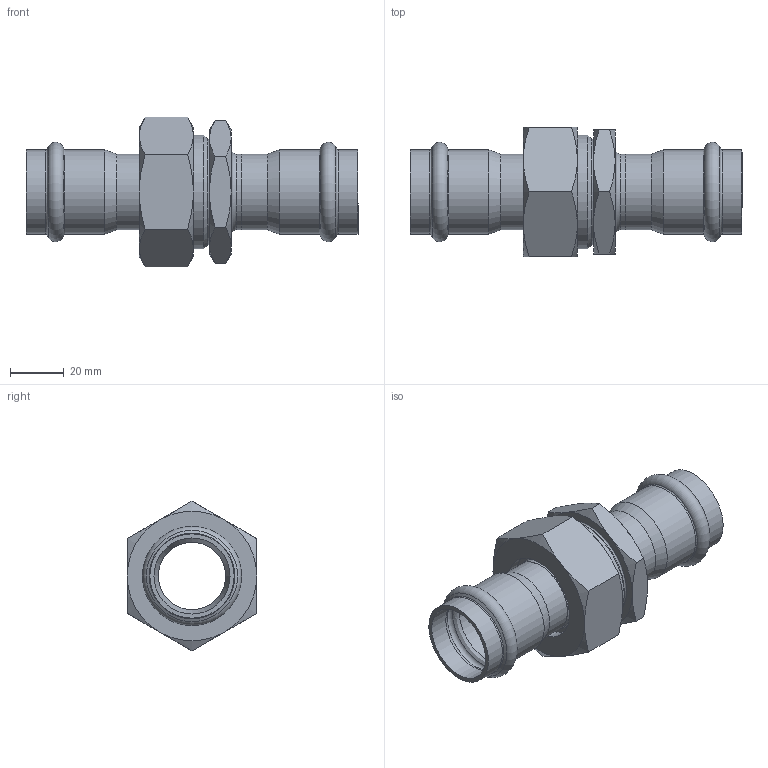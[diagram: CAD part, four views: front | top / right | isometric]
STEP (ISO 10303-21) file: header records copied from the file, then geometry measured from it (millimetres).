
FILE_DESCRIPTION((''),'2;1');
FILE_NAME('G:\Nirosan-Schmiedefeld\Technics\CAD\Bauteile VA\028\6933028(3).stp','2011-05-25T08:47:13',('herberg'),(''),'Autodesk Inventor 2009','Autodesk Inventor 2009','');
FILE_SCHEMA(('AUTOMOTIVE_DESIGN { 1 0 10303 214 1 1 1 1 }'));
Length unit declared in the file: millimetre
Products named in the file (9): 6933028(3); 69359m28114(4); HM_6924328(1); R28114(0); SM28114(3); FD_3827_EPDM(0); 69359AG28114(1); 6924328HM(1); 359AG28114(2)
Assembly tree (8 placements, depth 3):
  6933028(3)
    69359m28114(4)
      HM_6924328(1)
      R28114(0)
      SM28114(3)
      FD_3827_EPDM(0)
    69359AG28114(1)
      6924328HM(1)
      359AG28114(2)
Bounding box: 123 x 48 x 55.43 mm (x, y, z)
Volume: 55306.9 mm3; surface area: 38097.7 mm2
Topology: 6 solids, 6 shells, 103 faces, 203 edges, 116 vertices
Faces by surface type: cone 37, plane 27, cylinder 21, bspline 12, torus 6
Full cylindrical faces by diameter (mm): 25 x4, 27 x1, 28 x4, 28.2 x4, 29 x1, 31.2 x4, 38 x2, 41.91 x1
Entity records: 2986 total; most frequent: CARTESIAN_POINT 947, DIRECTION 406, ORIENTED_EDGE 298, AXIS2_PLACEMENT_3D 197, EDGE_LOOP 170, EDGE_CURVE 149, VERTEX_POINT 113, FACE_OUTER_BOUND 103
